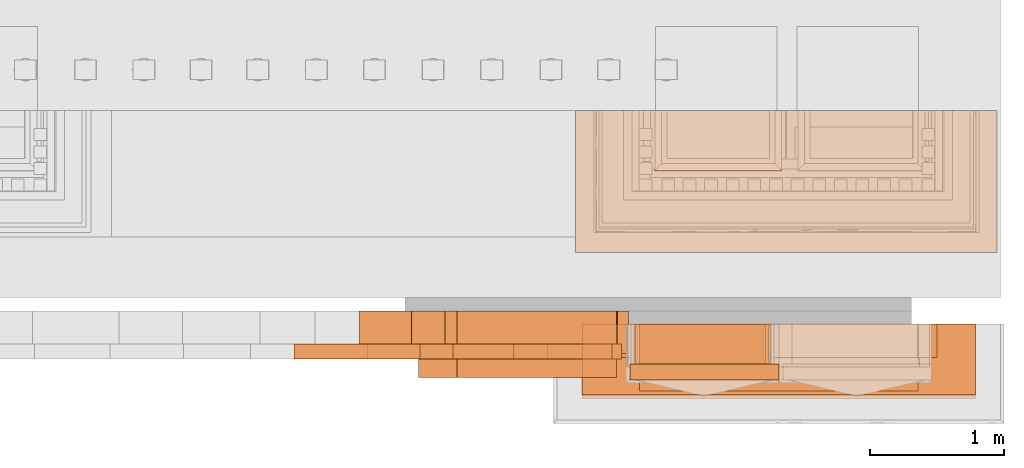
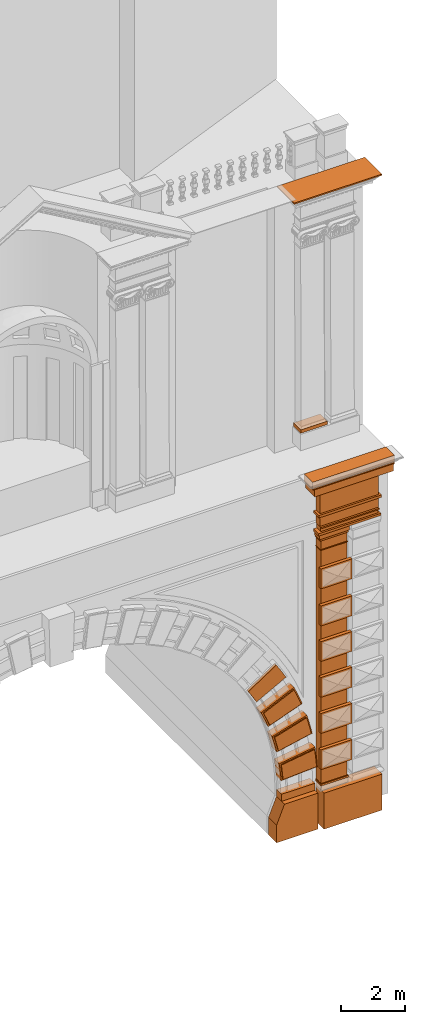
# One storey, part 11 of 44: 34 proxies.
"""IFC2X3 building model written with IfcOpenShell, lengths in metres."""

from ifc_helpers import new_model, entity, si_unit, converted_unit, derived_unit, direction, frame, frame_2d, origin, place, context, subcontext, project, spatial, polyline, circle_curve, parameter, trimmed, segment, composite_curve, rectangle, outline, extrude, material, element, save


model = new_model("IFC2X3")

# Units and contexts
model_context = context("Model", 3, precision=1e-05, world=origin(), true_north=direction((6.12303176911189e-17, 1.0)))
body_context = subcontext(model_context, "Body", "Model", "MODEL_VIEW")
ifc_project = project(units=[si_unit("LENGTHUNIT", "METRE"), si_unit("AREAUNIT", "SQUARE_METRE"), si_unit("VOLUMEUNIT", "CUBIC_METRE"), converted_unit("PLANEANGLEUNIT", "DEGREE", entity("IfcRatioMeasure", 0.0174532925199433), si_unit("PLANEANGLEUNIT", "RADIAN"), dimensions=[0, 0, 0, 0, 0, 0, 0]), si_unit("MASSUNIT", "GRAM", prefix="KILO"), derived_unit("MASSDENSITYUNIT", [(si_unit("MASSUNIT", "GRAM", prefix="KILO"), 1), (si_unit("LENGTHUNIT", "METRE"), -3)]), si_unit("TIMEUNIT", "SECOND"), si_unit("FREQUENCYUNIT", "HERTZ"), si_unit("THERMODYNAMICTEMPERATUREUNIT", "DEGREE_CELSIUS"), derived_unit("THERMALTRANSMITTANCEUNIT", [(si_unit("MASSUNIT", "GRAM", prefix="KILO"), 1), (si_unit("THERMODYNAMICTEMPERATUREUNIT", "KELVIN"), -1), (si_unit("TIMEUNIT", "SECOND"), -3)]), derived_unit("VOLUMETRICFLOWRATEUNIT", [(si_unit("LENGTHUNIT", "METRE"), 3), (si_unit("TIMEUNIT", "SECOND"), -1)]), si_unit("ELECTRICCURRENTUNIT", "AMPERE"), si_unit("ELECTRICVOLTAGEUNIT", "VOLT"), si_unit("POWERUNIT", "WATT"), si_unit("FORCEUNIT", "NEWTON", prefix="KILO"), si_unit("ILLUMINANCEUNIT", "LUX"), si_unit("LUMINOUSFLUXUNIT", "LUMEN"), si_unit("LUMINOUSINTENSITYUNIT", "CANDELA"), derived_unit("USERDEFINED", [(si_unit("MASSUNIT", "GRAM", prefix="KILO"), -1), (si_unit("LENGTHUNIT", "METRE"), -2), (si_unit("TIMEUNIT", "SECOND"), 3), (si_unit("LUMINOUSFLUXUNIT", "LUMEN"), 1)]), derived_unit("LINEARVELOCITYUNIT", [(si_unit("LENGTHUNIT", "METRE"), 1), (si_unit("TIMEUNIT", "SECOND"), -1)]), si_unit("PRESSUREUNIT", "PASCAL"), derived_unit("USERDEFINED", [(si_unit("LENGTHUNIT", "METRE"), -2), (si_unit("MASSUNIT", "GRAM", prefix="KILO"), 1), (si_unit("TIMEUNIT", "SECOND"), -2)])], contexts=[model_context])

# Site, building, storey
site_placement = place(None, origin())
site = spatial("IfcSite", under=ifc_project, at=site_placement, Name="Default", CompositionType="ELEMENT")
building_placement = place(site_placement, origin())
building = spatial("IfcBuilding", under=site, at=building_placement, CompositionType="ELEMENT")
storey_placement = place(building_placement, origin())
storey = spatial("IfcBuildingStorey", under=building, at=storey_placement, Name="Livello 1", CompositionType="ELEMENT", Elevation=0.0)

# Proxies
ifc_material_1 = material(Name="Piperno")
proxy_1_placement = place(storey_placement, frame((6.72887975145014, -0.594467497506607, 5.48869102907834)))
element("IfcBuildingElementProxy", 1, at=proxy_1_placement, inside=storey, material=ifc_material_1, Name="Stratigrafia", context=body_context, shape_type="SweptSolid", body=[
    extrude(outline(composite_curve([segment(trimmed(circle_curve(frame_2d((-1.33809374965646, 8.5733681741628), x_axis=(1.0, 0.0)), 9.28496378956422), [parameter(276.782159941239)], [parameter(280.96038991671)], True, "PARAMETER"), True, "CONTINUOUS"), segment(polyline([(0.427259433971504, -0.542227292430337), (0.191822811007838, 0.638881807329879)]), True, "CONTINUOUS"), segment(trimmed(circle_curve(frame_2d((-1.33947047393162, 8.57665166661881), x_axis=(1.0, 0.0)), 8.08412329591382), [parameter(276.834147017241)], [parameter(280.918928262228)], True, "PARAMETER"), False, "CONTINUOUS"), segment(polyline([(-0.37749429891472, 0.549967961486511), (-0.241587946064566, -0.646622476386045)]), True, "CONTINUOUS")], self_intersect=False)), frame((0.665849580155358, 0.0, 0.557413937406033), z_axis=(0.0, 1.0, 0.0), x_axis=(0.639045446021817, 0.0, -0.769168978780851)), (0.0, 0.0, 1.0), 0.11),
])
proxy_2_placement = place(storey_placement, frame((7.21345106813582, -0.554467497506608, 4.36986366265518)))
element("IfcBuildingElementProxy", 2, at=proxy_2_placement, inside=storey, material=ifc_material_1, Name="Stratigrafia", context=body_context, shape_type="SweptSolid", body=[
    extrude(outline(composite_curve([segment(trimmed(circle_curve(frame_2d((-1.33916111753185, 8.57467506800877), x_axis=(1.0, 0.0)), 9.33830961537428), [parameter(276.479772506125)], [parameter(281.273302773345)], True, "PARAMETER"), True, "CONTINUOUS"), segment(polyline([(0.486377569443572, -0.583459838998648), (0.231423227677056, 0.695563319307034)]), True, "CONTINUOUS"), segment(trimmed(circle_curve(frame_2d((-1.33916111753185, 8.57467506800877), x_axis=(1.0, 0.0)), 8.03412329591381), [parameter(276.479772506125)], [parameter(281.273302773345)], True, "PARAMETER"), False, "CONTINUOUS"), segment(polyline([(-0.432490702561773, 0.591875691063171), (-0.285310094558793, -0.70397917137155)]), True, "CONTINUOUS")], self_intersect=False)), frame((0.732149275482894, 0.0, 0.56172647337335), z_axis=(0.0, 1.0, 0.0), x_axis=(0.521378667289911, 0.0, -0.853325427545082)), (0.0, 0.0, 1.0), 0.32),
])
proxy_3_placement = place(storey_placement, frame((7.27973392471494, -0.594467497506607, 4.433974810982)))
element("IfcBuildingElementProxy", 3, at=proxy_3_placement, inside=storey, material=ifc_material_1, Name="Stratigrafia", context=body_context, shape_type="SweptSolid", body=[
    extrude(outline(composite_curve([segment(trimmed(circle_curve(frame_2d((-1.33809374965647, 8.5733681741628), x_axis=(1.0, 0.0)), 9.28496378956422), [parameter(276.782159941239)], [parameter(280.96038991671)], True, "PARAMETER"), True, "CONTINUOUS"), segment(polyline([(0.427259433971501, -0.542227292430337), (0.191822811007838, 0.638881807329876)]), True, "CONTINUOUS"), segment(trimmed(circle_curve(frame_2d((-1.33947047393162, 8.57665166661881), x_axis=(1.0, 0.0)), 8.08412329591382), [parameter(276.834147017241)], [parameter(280.918928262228)], True, "PARAMETER"), False, "CONTINUOUS"), segment(polyline([(-0.377494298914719, 0.54996796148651), (-0.241587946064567, -0.646622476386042)]), True, "CONTINUOUS")], self_intersect=False)), frame((0.667714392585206, 0.0, 0.498381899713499), z_axis=(0.0, 1.0, 0.0), x_axis=(0.521378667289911, 0.0, -0.853325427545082)), (0.0, 0.0, 1.0), 0.11),
])
proxy_4_placement = place(storey_placement, frame((7.6090807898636, -0.554467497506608, 3.29247600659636)))
element("IfcBuildingElementProxy", 4, at=proxy_4_placement, inside=storey, material=ifc_material_1, Name="Stratigrafia", context=body_context, shape_type="SweptSolid", body=[
    extrude(outline(composite_curve([segment(trimmed(circle_curve(frame_2d((-1.33916111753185, 8.57467506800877), x_axis=(1.0, 0.0)), 9.33830961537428), [parameter(276.479772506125)], [parameter(281.273302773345)], True, "PARAMETER"), True, "CONTINUOUS"), segment(polyline([(0.486377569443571, -0.583459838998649), (0.231423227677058, 0.695563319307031)]), True, "CONTINUOUS"), segment(trimmed(circle_curve(frame_2d((-1.33916111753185, 8.57467506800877), x_axis=(1.0, 0.0)), 8.03412329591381), [parameter(276.479772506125)], [parameter(281.273302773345)], True, "PARAMETER"), False, "CONTINUOUS"), segment(polyline([(-0.432490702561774, 0.591875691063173), (-0.285310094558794, -0.703979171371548)]), True, "CONTINUOUS")], self_intersect=False)), frame((0.716385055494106, 0.0, 0.489654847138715), z_axis=(0.0, 1.0, 0.0), x_axis=(0.396188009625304, 0.0, -0.91816940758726)), (0.0, 0.0, 1.0), 0.32),
])
proxy_5_placement = place(storey_placement, frame((7.67128551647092, -0.594467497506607, 3.35179149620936)))
element("IfcBuildingElementProxy", 5, at=proxy_5_placement, inside=storey, material=ifc_material_1, Name="Stratigrafia", context=body_context, shape_type="SweptSolid", body=[
    extrude(outline(composite_curve([segment(trimmed(circle_curve(frame_2d((-1.33809374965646, 8.5733681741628), x_axis=(1.0, 0.0)), 9.28496378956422), [parameter(276.782159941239)], [parameter(280.96038991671)], True, "PARAMETER"), True, "CONTINUOUS"), segment(polyline([(0.427259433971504, -0.542227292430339), (0.191822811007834, 0.638881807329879)]), True, "CONTINUOUS"), segment(trimmed(circle_curve(frame_2d((-1.33947047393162, 8.57665166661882), x_axis=(1.0, 0.0)), 8.08412329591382), [parameter(276.834147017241)], [parameter(280.918928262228)], True, "PARAMETER"), False, "CONTINUOUS"), segment(polyline([(-0.377494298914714, 0.549967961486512), (-0.241587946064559, -0.646622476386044)]), True, "CONTINUOUS")], self_intersect=False)), frame((0.656117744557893, 0.0, 0.430838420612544), z_axis=(0.0, 1.0, 0.0), x_axis=(0.396188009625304, 0.0, -0.91816940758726)), (0.0, 0.0, 1.0), 0.11),
])
proxy_6_placement = place(storey_placement, frame((7.86112175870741, -0.554467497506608, 2.1506144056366)))
element("IfcBuildingElementProxy", 6, at=proxy_6_placement, inside=storey, material=ifc_material_1, Name="Stratigrafia", context=body_context, shape_type="SweptSolid", body=[
    extrude(outline(composite_curve([segment(trimmed(circle_curve(frame_2d((-1.33916111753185, 8.57467506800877), x_axis=(1.0, 0.0)), 9.33830961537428), [parameter(276.479772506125)], [parameter(281.273302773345)], True, "PARAMETER"), True, "CONTINUOUS"), segment(polyline([(0.48637756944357, -0.583459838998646), (0.231423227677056, 0.695563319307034)]), True, "CONTINUOUS"), segment(trimmed(circle_curve(frame_2d((-1.33916111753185, 8.57467506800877), x_axis=(1.0, 0.0)), 8.03412329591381), [parameter(276.479772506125)], [parameter(281.273302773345)], True, "PARAMETER"), False, "CONTINUOUS"), segment(polyline([(-0.432490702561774, 0.59187569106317), (-0.285310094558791, -0.703979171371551)]), True, "CONTINUOUS")], self_intersect=False)), frame((0.684651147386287, 0.0, 0.403798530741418), z_axis=(0.0, 1.0, 0.0), x_axis=(0.25667422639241, 0.0, -0.966497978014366)), (0.0, 0.0, 1.0), 0.32),
])
proxy_7_placement = place(storey_placement, frame((7.91773143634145, -0.594467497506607, 2.20364516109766)))
element("IfcBuildingElementProxy", 7, at=proxy_7_placement, inside=storey, material=ifc_material_1, Name="Stratigrafia", context=body_context, shape_type="SweptSolid", body=[
    extrude(outline(composite_curve([segment(trimmed(circle_curve(frame_2d((-1.33809374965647, 8.5733681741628), x_axis=(1.0, 0.0)), 9.28496378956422), [parameter(276.782159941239)], [parameter(280.96038991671)], True, "PARAMETER"), True, "CONTINUOUS"), segment(polyline([(0.427259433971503, -0.54222729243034), (0.191822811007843, 0.638881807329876)]), True, "CONTINUOUS"), segment(trimmed(circle_curve(frame_2d((-1.33947047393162, 8.57665166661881), x_axis=(1.0, 0.0)), 8.08412329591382), [parameter(276.834147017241)], [parameter(280.918928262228)], True, "PARAMETER"), False, "CONTINUOUS"), segment(polyline([(-0.377494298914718, 0.54996796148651), (-0.241587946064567, -0.64662247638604)]), True, "CONTINUOUS")], self_intersect=False)), frame((0.630031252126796, 0.0, 0.350976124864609), z_axis=(0.0, 1.0, 0.0), x_axis=(0.25667422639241, 0.0, -0.966497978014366)), (0.0, 0.0, 1.0), 0.11),
])
proxy_8_placement = place(storey_placement, frame((7.66290072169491, -0.734467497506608, 2.46117506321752e-09)))
element("IfcBuildingElementProxy", 8, at=proxy_8_placement, inside=storey, material=ifc_material_1, Name="Stratigrafia", context=body_context, shape_type="SweptSolid", body=[
    extrude(outline(polyline([(-0.679717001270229, -0.650306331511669), (-0.0159680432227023, -0.650306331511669), (0.687701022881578, -0.363679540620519), (0.687701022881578, 0.832146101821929), (-0.679717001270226, 0.832146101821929), (-0.679717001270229, -0.650306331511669)])), frame((0.650306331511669, 0.0, 0.679717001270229), z_axis=(0.0, 1.0, 0.0), x_axis=(0.0, 0.0, 1.0)), (0.0, 0.0, 1.0), 0.5),
])
ifc_material_2 = material(Name="Travertino")
proxy_9_placement = place(storey_placement, frame((7.94950520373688, -0.554467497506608, 1.36741802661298)))
element("IfcBuildingElementProxy", 9, at=proxy_9_placement, inside=storey, material=ifc_material_2, Name="Stratigrafia", context=body_context, shape_type="SweptSolid", body=[
    extrude(rectangle(XDim=0.268713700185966, YDim=0.32, at=frame_2d((0.0, 0.0), x_axis=(0.0, 1.0))), frame((0.0, 0.16, 0.134356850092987), z_axis=(1.0, 0.0, 0.0), x_axis=(0.0, 1.0, 0.0)), (0.0, 0.0, 1.0), 1.19584795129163),
])
proxy_10_placement = place(storey_placement, frame((9.31554507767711, -0.83446749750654, 0.0)))
element("IfcBuildingElementProxy", 10, at=proxy_10_placement, inside=storey, material=ifc_material_1, Name="Stratigrafia", context=body_context, shape_type="SweptSolid", body=[
    extrude(rectangle(XDim=1.36741802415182, YDim=0.5, at=frame_2d((0.0, 0.0), x_axis=(0.0, 1.0))), frame((0.0, 0.25, 0.683709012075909), z_axis=(1.0, 0.0, 0.0), x_axis=(0.0, 1.0, 0.0)), (0.0, 0.0, 1.0), 2.08827024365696),
])
proxy_11_placement = place(storey_placement, frame((9.2886938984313, -0.67446749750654, 1.5459603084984)))
element("IfcBuildingElementProxy", 11, at=proxy_11_placement, inside=storey, material=ifc_material_2, Name="Stratigrafia", context=body_context, shape_type="SweptSolid", body=[
    extrude(rectangle(XDim=0.0671759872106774, YDim=0.34, at=frame_2d((6.93889390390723e-17, 0.0), x_axis=(0.0, 1.0))), frame((0.0, 0.17, 0.0335879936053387), z_axis=(1.0, 0.0, 0.0), x_axis=(0.0, 1.0, 0.0)), (0.0, 0.0, 1.0), 0.997732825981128),
])
proxy_12_placement = place(storey_placement, frame((9.2870819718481, -0.63446749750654, 1.61154102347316)))
element("IfcBuildingElementProxy", 12, at=proxy_12_placement, inside=storey, material=ifc_material_2, Name="Stratigrafia", context=body_context, shape_type="SweptSolid", body=[
    extrude(outline(composite_curve([segment(polyline([(-0.414101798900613, -6.28964733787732), (0.583646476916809, -6.28964733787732)]), True, "CONTINUOUS"), segment(trimmed(circle_curve(frame_2d((0.588542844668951, -6.25788414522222), x_axis=(-0.15231522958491, -0.988331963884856)), 0.0321383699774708), [parameter(287.512604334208)], [parameter(359.997827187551)], True, "PARAMETER"), False, "CONTINUOUS"), segment(polyline([(0.556778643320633, -6.26277396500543), (0.556778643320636, 2.54723294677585)]), True, "CONTINUOUS"), segment(trimmed(circle_curve(frame_2d((0.606382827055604, 2.53651033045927), x_axis=(-0.898230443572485, 0.439524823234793)), 0.0507498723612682), [parameter(1.63175686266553e-08)], [parameter(13.8759811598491)], True, "PARAMETER"), False, "CONTINUOUS"), segment(trimmed(circle_curve(frame_2d((0.606815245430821, 2.53629873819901), x_axis=(-0.80534091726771, 0.592811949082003)), 0.0512312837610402), [parameter(359.999999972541)], [parameter(10.2832406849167)], True, "PARAMETER"), False, "CONTINUOUS"), segment(trimmed(circle_curve(frame_2d((0.607357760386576, 2.53589939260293), x_axis=(-0.664653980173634, 0.747151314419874)), 0.0519049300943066), [parameter(359.999999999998)], [parameter(11.9874072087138)], True, "PARAMETER"), False, "CONTINUOUS"), segment(polyline([(0.572858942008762, 2.57468022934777), (0.572858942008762, 2.5776591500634)]), True, "CONTINUOUS"), segment(polyline([(0.572858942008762, 2.5776591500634), (-0.405712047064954, 2.5776591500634)]), True, "CONTINUOUS"), segment(polyline([(-0.405712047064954, 2.5776591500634), (-0.405712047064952, 2.57639329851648)]), True, "CONTINUOUS"), segment(trimmed(circle_curve(frame_2d((-0.438883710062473, 2.53588550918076), x_axis=(0.664836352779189, 0.746989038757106)), 0.0523568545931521), [parameter(359.999999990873)], [parameter(2.35586561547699)], True, "PARAMETER"), False, "CONTINUOUS"), segment(trimmed(circle_curve(frame_2d((-0.438573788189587, 2.53621466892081), x_axis=(0.805292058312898, 0.592878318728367)), 0.0519049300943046), [parameter(359.999999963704)], [parameter(11.9826852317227)], True, "PARAMETER"), False, "CONTINUOUS"), segment(trimmed(circle_curve(frame_2d((-0.438033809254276, 2.53661745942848), x_axis=(0.898200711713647, 0.439585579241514)), 0.0512312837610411), [parameter(1.65649394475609e-08)], [parameter(10.2793651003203)], True, "PARAMETER"), False, "CONTINUOUS"), segment(trimmed(circle_curve(frame_2d((-0.437602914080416, 2.53683216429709), x_axis=(0.954143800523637, 0.299348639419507)), 0.0507498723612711), [parameter(3.64582148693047e-08)], [parameter(8.65508183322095)], True, "PARAMETER"), False, "CONTINUOUS"), segment(trimmed(circle_curve(frame_2d((-0.437301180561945, 2.53692835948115), x_axis=(0.987346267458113, 0.158579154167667)), 0.0504331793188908), [parameter(357.78212283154)], [parameter(8.29239101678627)], True, "PARAMETER"), False, "CONTINUOUS"), segment(polyline([(-0.387233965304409, 2.54299297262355), (-0.387233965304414, -5.67040610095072)]), True, "CONTINUOUS"), segment(polyline([(-0.387233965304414, -5.67040610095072), (-0.387233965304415, -6.26277396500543)]), True, "CONTINUOUS"), segment(trimmed(circle_curve(frame_2d((-0.418998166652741, -6.25788414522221), x_axis=(0.152315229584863, -0.988331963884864)), 0.032138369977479), [parameter(0.00217281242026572)], [parameter(72.4873956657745)], True, "PARAMETER"), False, "CONTINUOUS")], self_intersect=False)), frame((0.585241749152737, 0.0, 6.29124261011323), z_axis=(0.0, 1.0, 0.0), x_axis=(-1.0, 0.0, 0.0)), (0.0, 0.0, 1.0), 0.3),
])
for number, where in (
    (13, (9.246056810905, -0.75446749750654, 2.23237753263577)),
    (14, (9.24605681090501, -0.75446749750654, 3.61089686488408)),
    (15, (9.24605681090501, -0.75446749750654, 4.98055370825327)),
    (16, (9.24605681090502, -0.75446749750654, 6.3449740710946)),
    (17, (9.24605681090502, -0.75446749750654, 7.6966812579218)),
):
    element("IfcBuildingElementProxy", number, at=place(storey_placement, frame(where)), inside=storey, material=ifc_material_1, Name="Stratigrafia", context=body_context, shape_type="SweptSolid", body=[
        extrude(rectangle(XDim=0.756670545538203, YDim=0.12, at=frame_2d((0.0, 0.0), x_axis=(0.0, 1.0))), frame((0.0, 0.06, 0.378335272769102), z_axis=(1.0, 0.0, 0.0), x_axis=(0.0, 1.0, 0.0)), (0.0, 0.0, 1.0), 1.11440463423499),
    ])
proxy_13_placement = place(storey_placement, frame((9.24605681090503, -0.75446749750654, 9.10319346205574)))
element("IfcBuildingElementProxy", 18, at=proxy_13_placement, inside=storey, material=ifc_material_1, Name="Stratigrafia", context=body_context, shape_type="SweptSolid", body=[
    extrude(rectangle(XDim=0.756670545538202, YDim=0.12, at=frame_2d((0.0, 5.55111512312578e-16), x_axis=(0.0, 1.0))), frame((0.0, 0.06, 0.378335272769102), z_axis=(1.0, 0.0, 0.0), x_axis=(0.0, 1.0, 0.0)), (0.0, 0.0, 1.0), 1.11440463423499),
])
proxy_14_placement = place(storey_placement, frame((9.30159329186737, -0.654667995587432, 10.4804427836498)))
element("IfcBuildingElementProxy", 19, at=proxy_14_placement, inside=storey, material=ifc_material_2, Name="Stratigrafia", context=body_context, shape_type="SweptSolid", body=[
    extrude(rectangle(XDim=0.0231758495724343, YDim=0.320200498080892, at=frame_2d((-4.16333634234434e-17, 0.0), x_axis=(0.0, 1.0))), frame((0.0, 0.160100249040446, 0.0115879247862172), z_axis=(1.0, 0.0, 0.0), x_axis=(0.0, 1.0, 0.0)), (0.0, 0.0, 1.0), 0.976442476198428),
])
proxy_15_placement = place(storey_placement, frame((9.27412938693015, -0.63446749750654, 10.5020233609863)))
element("IfcBuildingElementProxy", 20, at=proxy_15_placement, inside=storey, material=ifc_material_2, Name="Stratigrafia", context=body_context, shape_type="SweptSolid", body=[
    extrude(outline(composite_curve([segment(trimmed(circle_curve(frame_2d((-0.191302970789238, 0.529310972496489), x_axis=(-0.966047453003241, -0.258364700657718)), 0.0603691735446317), [parameter(2.54444374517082e-13)], [parameter(61.0495077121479)], True, "PARAMETER"), False, "CONTINUOUS"), segment(polyline([(-0.24962245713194, 0.513713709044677), (-0.251438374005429, -0.512827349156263)]), True, "CONTINUOUS"), segment(trimmed(circle_curve(frame_2d((-0.193174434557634, -0.528630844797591), x_axis=(-0.965127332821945, 0.261780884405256)), 0.0603691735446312), [parameter(298.950492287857)], [parameter(8.65110873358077e-13)], True, "PARAMETER"), False, "CONTINUOUS"), segment(polyline([(-0.20754864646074, -0.469997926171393), (0.0578943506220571, -0.470937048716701)]), True, "CONTINUOUS"), segment(trimmed(circle_curve(frame_2d((0.0498086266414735, -0.520717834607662), x_axis=(0.160325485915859, 0.987064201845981)), 0.0504331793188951), [parameter(351.707608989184)], [parameter(360.0)], True, "PARAMETER"), False, "CONTINUOUS"), segment(trimmed(circle_curve(frame_2d((0.0497118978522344, -0.521019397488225), x_axis=(0.301036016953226, 0.953612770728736)), 0.0507498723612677), [parameter(351.344918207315)], [parameter(359.999999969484)], True, "PARAMETER"), False, "CONTINUOUS"), segment(trimmed(circle_curve(frame_2d((0.0494964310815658, -0.52144991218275), x_axis=(0.441173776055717, 0.897421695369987)), 0.0512312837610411), [parameter(349.720634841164)], [parameter(2.35897924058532e-08)], True, "PARAMETER"), False, "CONTINUOUS"), segment(trimmed(circle_curve(frame_2d((0.0490926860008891, -0.521989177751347), x_axis=(0.594301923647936, 0.804242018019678)), 0.0519049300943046), [parameter(348.017314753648)], [parameter(359.999999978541)], True, "PARAMETER"), False, "CONTINUOUS"), segment(trimmed(circle_curve(frame_2d((0.0487629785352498, -0.522298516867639), x_axis=(0.748163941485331, 0.66351391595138)), 0.0523568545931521), [parameter(357.687391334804)], [parameter(359.99999999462)], True, "PARAMETER"), False, "CONTINUOUS"), segment(polyline([(0.089304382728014, -0.489167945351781), (0.0910344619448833, 0.48884893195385)]), True, "CONTINUOUS"), segment(trimmed(circle_curve(frame_2d((0.0506105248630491, 0.522122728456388), x_axis=(0.745811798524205, -0.666156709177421)), 0.0523568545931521), [parameter(5.38012452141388e-09)], [parameter(2.31260866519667)], True, "PARAMETER"), False, "CONTINUOUS"), segment(trimmed(circle_curve(frame_2d((0.0509391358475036, 0.521812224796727), x_axis=(0.591452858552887, -0.806339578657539)), 0.0519049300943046), [parameter(359.999999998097)], [parameter(11.9826852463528)], True, "PARAMETER"), False, "CONTINUOUS"), segment(trimmed(circle_curve(frame_2d((0.0513409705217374, 0.521271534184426), x_axis=(0.437996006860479, -0.898976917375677)), 0.0512312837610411), [parameter(6.6122968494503e-09)], [parameter(10.2793651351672)], True, "PARAMETER"), False, "CONTINUOUS"), segment(trimmed(circle_curve(frame_2d((0.0515549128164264, 0.5208402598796), x_axis=(0.297660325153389, -0.9546718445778)), 0.0507498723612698), [parameter(3.62487053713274e-08)], [parameter(8.65508182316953)], True, "PARAMETER"), False, "CONTINUOUS"), segment(trimmed(circle_curve(frame_2d((0.0516505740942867, 0.520538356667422), x_axis=(0.156832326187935, -0.987625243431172)), 0.0504331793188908), [parameter(2.54444374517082e-13)], [parameter(8.29239101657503)], True, "PARAMETER"), False, "CONTINUOUS"), segment(polyline([(0.0595601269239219, 0.470729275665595), (-0.205884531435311, 0.470729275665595)]), True, "CONTINUOUS")], self_intersect=False)), frame((0.514866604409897, 0.0, 0.0917648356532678), z_axis=(0.0, -1.0, 0.0), x_axis=(0.0017689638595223, 0.0, -0.999998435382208)), (0.0, 0.0, -1.0), 0.3),
])
proxy_16_placement = place(storey_placement, frame((9.27576627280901, -0.654667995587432, 10.8443190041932)))
element("IfcBuildingElementProxy", 21, at=proxy_16_placement, inside=storey, material=ifc_material_2, Name="Stratigrafia", context=body_context, shape_type="SweptSolid", body=[
    extrude(rectangle(XDim=0.0638603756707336, YDim=0.320200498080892, at=frame_2d((-4.16333634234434e-17, 0.0), x_axis=(0.0, 1.0))), frame((0.0, 0.160100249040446, 0.0319301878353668), z_axis=(1.0, 0.0, 0.0), x_axis=(0.0, 1.0, 0.0)), (0.0, 0.0, 1.0), 1.02650105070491),
])
proxy_17_placement = place(storey_placement, frame((9.25492854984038, -0.654667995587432, 10.908179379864)))
element("IfcBuildingElementProxy", 22, at=proxy_17_placement, inside=storey, material=ifc_material_2, Name="Stratigrafia", context=body_context, shape_type="SweptSolid", body=[
    extrude(rectangle(XDim=0.153075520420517, YDim=0.320200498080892, at=frame_2d((-4.16333634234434e-17, 0.0), x_axis=(0.0, 1.0))), frame((0.0, 0.160100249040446, 0.0765377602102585), z_axis=(1.0, 0.0, 0.0), x_axis=(0.0, 1.0, 0.0)), (0.0, 0.0, 1.0), 1.06834077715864),
])
proxy_18_placement = place(storey_placement, frame((9.22231423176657, -0.654667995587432, 11.0612549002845)))
element("IfcBuildingElementProxy", 23, at=proxy_18_placement, inside=storey, material=ifc_material_2, Name="Stratigrafia", context=body_context, shape_type="SweptSolid", body=[
    extrude(rectangle(XDim=0.0847716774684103, YDim=0.320200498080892, at=frame_2d((-6.93889390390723e-17, 0.0), x_axis=(0.0, 1.0))), frame((0.0, 0.160100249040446, 0.0423858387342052), z_axis=(1.0, 0.0, 0.0), x_axis=(0.0, 1.0, 0.0)), (0.0, 0.0, 1.0), 2.24355427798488),
])
proxy_19_placement = place(storey_placement, frame((9.33873711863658, -0.58446749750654, 11.1460265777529)))
element("IfcBuildingElementProxy", 24, at=proxy_19_placement, inside=storey, material=ifc_material_2, Name="Stratigrafia", context=body_context, shape_type="SweptSolid", body=[
    extrude(rectangle(XDim=0.160779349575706, YDim=0.25, at=frame_2d((0.0, 0.0), x_axis=(0.0, 1.0))), frame((0.0, 0.125, 0.0803896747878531), z_axis=(1.0, 0.0, 0.0), x_axis=(0.0, 1.0, 0.0)), (0.0, 0.0, 1.0), 2.06320762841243),
])
proxy_20_placement = place(storey_placement, frame((9.30657348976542, -0.654667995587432, 11.3068059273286)))
element("IfcBuildingElementProxy", 25, at=proxy_20_placement, inside=storey, material=ifc_material_2, Name="Stratigrafia", context=body_context, shape_type="SweptSolid", body=[
    extrude(outline(polyline([(-1.05875861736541, -0.0237869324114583), (1.04874096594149, -0.0237869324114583), (1.03661263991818, 0.0237869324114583), (-1.02659498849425, 0.0237869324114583), (-1.05875861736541, -0.0237869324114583)])), frame((1.05875861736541, 0.0, 0.0237869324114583), z_axis=(0.0, 1.0, 0.0), x_axis=(1.0, 0.0, 0.0)), (0.0, 0.0, 1.0), 0.320200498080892),
])
proxy_21_placement = place(storey_placement, frame((9.2291884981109, -0.58446749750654, 11.3543797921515)))
element("IfcBuildingElementProxy", 26, at=proxy_21_placement, inside=storey, material=ifc_material_1, Name="Stratigrafia", context=body_context, shape_type="SweptSolid", body=[
    extrude(outline(composite_curve([segment(polyline([(-0.463239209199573, 0.946973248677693), (-0.677501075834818, 0.834238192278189)]), True, "CONTINUOUS"), segment(polyline([(-0.677501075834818, 0.834238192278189), (0.303825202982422, -1.03084980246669)]), True, "CONTINUOUS"), segment(polyline([(0.303825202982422, -1.03084980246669), (0.518087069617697, -0.918114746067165)]), True, "CONTINUOUS"), segment(trimmed(circle_curve(frame_2d((0.603403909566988, -1.03500938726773), x_axis=(0.566367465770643, 0.824152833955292)), 0.144718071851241), [parameter(7.4806646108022e-12)], [parameter(70.6215529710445)], True, "PARAMETER"), False, "CONTINUOUS"), segment(polyline([(0.685367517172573, -0.915739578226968), (-0.366539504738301, 1.08349268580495)]), True, "CONTINUOUS"), segment(trimmed(circle_curve(frame_2d((-0.511257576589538, 1.08349268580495), x_axis=(1.0, 0.0)), 0.144718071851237), [parameter(289.378447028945)], [parameter(360.0)], True, "PARAMETER"), False, "CONTINUOUS")], self_intersect=False)), frame((1.13113478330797, 0.0, 0.211121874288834), z_axis=(0.0, -1.0, 0.0), x_axis=(0.465635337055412, 0.0, 0.884976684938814)), (0.0, 0.0, -1.0), 0.25),
])
proxy_22_placement = place(storey_placement, frame((9.23078377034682, -0.654667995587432, 11.7456352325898)))
element("IfcBuildingElementProxy", 27, at=proxy_22_placement, inside=storey, material=ifc_material_1, Name="Stratigrafia", context=body_context, shape_type="SweptSolid", body=[
    extrude(rectangle(XDim=0.0932025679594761, YDim=0.320200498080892, at=frame_2d((-6.93889390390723e-17, 0.0), x_axis=(0.0, 1.0))), frame((0.0, 0.160100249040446, 0.046601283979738), z_axis=(1.0, 0.0, 0.0), x_axis=(0.0, 1.0, 0.0)), (0.0, 0.0, 1.0), 2.25907902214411),
])
proxy_23_placement = place(storey_placement, frame((9.17277946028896, -0.58446749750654, 11.8388378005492)))
element("IfcBuildingElementProxy", 28, at=proxy_23_placement, inside=storey, material=ifc_material_2, Name="Stratigrafia", context=body_context, shape_type="SweptSolid", body=[
    extrude(outline(composite_curve([segment(polyline([(-0.272440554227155, 1.03721328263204), (-0.973408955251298, 0.70410603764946)]), True, "CONTINUOUS"), segment(polyline([(-0.973408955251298, 0.70410603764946), (-0.0688456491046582, -1.19939592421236)]), True, "CONTINUOUS"), segment(polyline([(-0.0688456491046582, -1.19939592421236), (0.632122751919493, -0.866288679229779)]), True, "CONTINUOUS"), segment(trimmed(circle_curve(frame_2d((0.701241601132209, -1.09197421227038), x_axis=(0.63155477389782, 0.775331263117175)), 0.236032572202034), [parameter(5.39422073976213e-12)], [parameter(56.1927478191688)], True, "PARAMETER"), False, "CONTINUOUS"), segment(polyline([(0.850309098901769, -0.908970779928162), (-0.167736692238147, 1.2333360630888)]), True, "CONTINUOUS"), segment(trimmed(circle_curve(frame_2d((-0.403769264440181, 1.2333360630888), x_axis=(1.0, 0.0)), 0.236032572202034), [parameter(303.807252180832)], [parameter(2.54444374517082e-13)], True, "PARAMETER"), False, "CONTINUOUS")], self_intersect=False)), frame((1.18754382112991, 0.0, 0.576976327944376), z_axis=(0.0, -1.0, 0.0), x_axis=(0.429211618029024, 0.0, 0.903203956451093)), (0.0, 0.0, -1.0), 0.25),
])
proxy_24_placement = place(storey_placement, frame((9.31554507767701, -0.67446749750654, 1.36741802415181)))
element("IfcBuildingElementProxy", 29, at=proxy_24_placement, inside=storey, material=ifc_material_2, Name="Stratigrafia", context=body_context, shape_type="SweptSolid", body=[
    extrude(rectangle(XDim=0.178542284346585, YDim=0.34, at=frame_2d((6.93889390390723e-17, 0.0), x_axis=(0.0, 1.0))), frame((0.0, 0.17, 0.0892711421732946), z_axis=(1.0, 0.0, 0.0), x_axis=(0.0, 1.0, 0.0)), (0.0, 0.0, 1.0), 0.944012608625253),
])
proxy_25_placement = place(storey_placement, frame((8.88632795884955, -0.89446749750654, 12.793675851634)))
element("IfcBuildingElementProxy", 30, at=proxy_25_placement, inside=storey, material=ifc_material_1, Name="Stratigrafia", context=body_context, shape_type="SweptSolid", body=[
    extrude(outline(composite_curve([segment(polyline([(-1.42260387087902, -0.166572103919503), (1.42260387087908, -0.166572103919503)]), True, "CONTINUOUS"), segment(polyline([(1.42260387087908, -0.166572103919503), (1.42260387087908, 0.0627993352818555)]), True, "CONTINUOUS"), segment(trimmed(circle_curve(frame_2d((1.47038377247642, 0.0554771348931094), x_axis=(0.0417123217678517, 0.999129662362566)), 0.0483377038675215), [parameter(2.47981487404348e-10)], [parameter(83.677923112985)], True, "PARAMETER"), False, "CONTINUOUS"), segment(polyline([(1.47240005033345, 0.103772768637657), (-1.47240005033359, 0.103772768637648)]), True, "CONTINUOUS"), segment(trimmed(circle_curve(frame_2d((-1.47038377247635, 0.0554771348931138), x_axis=(-0.0417123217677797, 0.999129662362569)), 0.0483377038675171), [parameter(276.32207688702)], [parameter(359.999999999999)], True, "PARAMETER"), False, "CONTINUOUS"), segment(polyline([(-1.42260387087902, 0.0627993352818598), (-1.42260387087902, -0.166572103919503)]), True, "CONTINUOUS")], self_intersect=False)), frame((1.47399532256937, 0.0, 0.166572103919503), z_axis=(0.0, 1.0, 0.0), x_axis=(-1.0, 0.0, 0.0)), (0.0, 0.0, 1.0), 0.56),
])
proxy_26_placement = place(storey_placement, frame((8.88792323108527, -0.86446749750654, 13.0640207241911)))
element("IfcBuildingElementProxy", 31, at=proxy_26_placement, inside=storey, material=ifc_material_1, Name="Stratigrafia", context=body_context, shape_type="SweptSolid", body=[
    extrude(rectangle(XDim=0.0479524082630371, YDim=0.53, at=frame_2d((0.0, 2.16493489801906e-15), x_axis=(0.0, 1.0))), frame((0.0, 0.265, 0.0239762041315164), z_axis=(1.0, 0.0, 0.0), x_axis=(0.0, 1.0, 0.0)), (0.0, 0.0, 1.0), 2.94480010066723),
])
proxy_27_placement = place(storey_placement, frame((8.88792323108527, -0.86446749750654, 13.1119731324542)))
element("IfcBuildingElementProxy", 32, at=proxy_27_placement, inside=storey, material=ifc_material_1, Name="Stratigrafia", context=body_context, shape_type="SweptSolid", body=[
    extrude(rectangle(XDim=0.23659765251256, YDim=0.53, at=frame_2d((2.77555756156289e-17, 0.0), x_axis=(0.0, 1.0))), frame((0.0, 0.265, 0.11829882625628), z_axis=(1.0, 0.0, 0.0), x_axis=(0.0, 1.0, 0.0)), (0.0, 0.0, 1.0), 2.94480010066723),
])
proxy_28_placement = place(storey_placement, frame((8.83772380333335, 0.201551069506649, 23.2776587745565)))
element("IfcBuildingElementProxy", 33, at=proxy_28_placement, inside=storey, material=ifc_material_1, Name="Stratigrafia", context=body_context, shape_type="SweptSolid", body=[
    extrude(rectangle(XDim=0.0517570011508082, YDim=1.06182166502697, at=frame_2d((0.0, 0.0), x_axis=(0.0, 1.0))), frame((0.0, 0.530910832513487, 0.0258785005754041), z_axis=(1.0, 0.0, 0.0), x_axis=(0.0, 1.0, 0.0)), (0.0, 0.0, 1.0), 3.15558554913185),
])
proxy_29_placement = place(storey_placement, frame((9.4286599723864, 0.813372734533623, 14.0045192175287)))
element("IfcBuildingElementProxy", 34, at=proxy_29_placement, inside=storey, material=ifc_material_1, Name="Stratigrafia", context=body_context, shape_type="SweptSolid", body=[
    extrude(rectangle(XDim=0.129364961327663, YDim=0.45, at=frame_2d((0.0, 0.0), x_axis=(0.0, 1.0))), frame((0.0, 0.225, 0.0646824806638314), z_axis=(1.0, 0.0, 0.0), x_axis=(0.0, 1.0, 0.0)), (0.0, 0.0, 1.0), 0.95641290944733),
])

save(model, "model.ifc")
